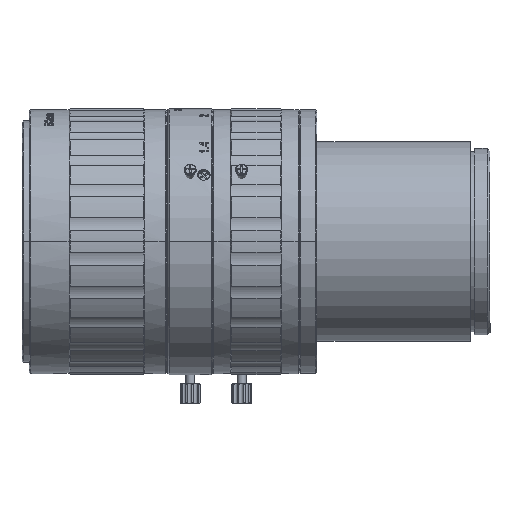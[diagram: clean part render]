
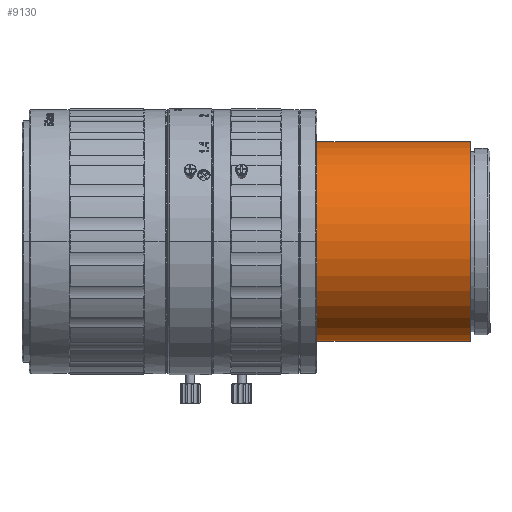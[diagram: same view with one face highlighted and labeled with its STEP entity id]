
A CAD part, top view. The second image highlights one B-rep face of the part: STEP entity #9130.
In plain terms, the highlighted cylindrical face has radius 22.5 mm (diameter 45 mm), a partial arc.
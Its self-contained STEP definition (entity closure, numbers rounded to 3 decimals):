
#815 = DIRECTION ( 'NONE',  ( -1., 0., 0. ) ) ;
#1139 = VERTEX_POINT ( 'NONE', #1718 ) ;
#1718 = CARTESIAN_POINT ( 'NONE',  ( 66.5, -22.5, 0. ) ) ;
#1991 = CARTESIAN_POINT ( 'NONE',  ( 101., 0., 0. ) ) ;
#2244 = ORIENTED_EDGE ( 'NONE', *, *, #2638, .F. ) ;
#2638 = EDGE_CURVE ( 'NONE', #1139, #8897, #5548, .T. ) ;
#2957 = LINE ( 'NONE', #12020, #3061 ) ;
#3061 = VECTOR ( 'NONE', #18167, 1000. ) ;
#4092 = CARTESIAN_POINT ( 'NONE',  ( 66.5, 22.5, 0. ) ) ;
#5548 = CIRCLE ( 'NONE', #23755, 22.5 ) ;
#5842 = LINE ( 'NONE', #14419, #22987 ) ;
#7414 = FACE_OUTER_BOUND ( 'NONE', #9969, .T. ) ;
#7962 = EDGE_CURVE ( 'NONE', #9346, #8897, #5842, .T. ) ;
#8827 = DIRECTION ( 'NONE',  ( -1., 0., 0. ) ) ;
#8897 = VERTEX_POINT ( 'NONE', #4092 ) ;
#9130 = ADVANCED_FACE ( 'NONE', ( #7414 ), #9731, .T. ) ;
#9346 = VERTEX_POINT ( 'NONE', #25861 ) ;
#9731 = CYLINDRICAL_SURFACE ( 'NONE', #28241, 22.5 ) ;
#9969 = EDGE_LOOP ( 'NONE', ( #21535, #10985, #2244, #23358 ) ) ;
#10985 = ORIENTED_EDGE ( 'NONE', *, *, #7962, .T. ) ;
#12020 = CARTESIAN_POINT ( 'NONE',  ( 65.223, -22.5, 0. ) ) ;
#12092 = EDGE_CURVE ( 'NONE', #14036, #9346, #13516, .T. ) ;
#13425 = CARTESIAN_POINT ( 'NONE',  ( 101., -22.5, 0. ) ) ;
#13516 = CIRCLE ( 'NONE', #14958, 22.5 ) ;
#13610 = DIRECTION ( 'NONE',  ( 0., -1., 0. ) ) ;
#13918 = CARTESIAN_POINT ( 'NONE',  ( 66.5, 0., 0. ) ) ;
#14036 = VERTEX_POINT ( 'NONE', #13425 ) ;
#14419 = CARTESIAN_POINT ( 'NONE',  ( 65.223, 22.5, 0. ) ) ;
#14958 = AXIS2_PLACEMENT_3D ( 'NONE', #1991, #815, #20967 ) ;
#16325 = DIRECTION ( 'NONE',  ( -1., 0., 0. ) ) ;
#16342 = EDGE_CURVE ( 'NONE', #14036, #1139, #2957, .T. ) ;
#16778 = DIRECTION ( 'NONE',  ( 0., -1., 0. ) ) ;
#18167 = DIRECTION ( 'NONE',  ( -1., 0., 0. ) ) ;
#18686 = CARTESIAN_POINT ( 'NONE',  ( 65.223, 0., 0. ) ) ;
#19430 = DIRECTION ( 'NONE',  ( -1., 0., 0. ) ) ;
#20967 = DIRECTION ( 'NONE',  ( 0., -1., 0. ) ) ;
#21535 = ORIENTED_EDGE ( 'NONE', *, *, #12092, .T. ) ;
#22987 = VECTOR ( 'NONE', #19430, 1000. ) ;
#23358 = ORIENTED_EDGE ( 'NONE', *, *, #16342, .F. ) ;
#23755 = AXIS2_PLACEMENT_3D ( 'NONE', #13918, #8827, #13610 ) ;
#25861 = CARTESIAN_POINT ( 'NONE',  ( 101., 22.5, 0. ) ) ;
#28241 = AXIS2_PLACEMENT_3D ( 'NONE', #18686, #16325, #16778 ) ;
